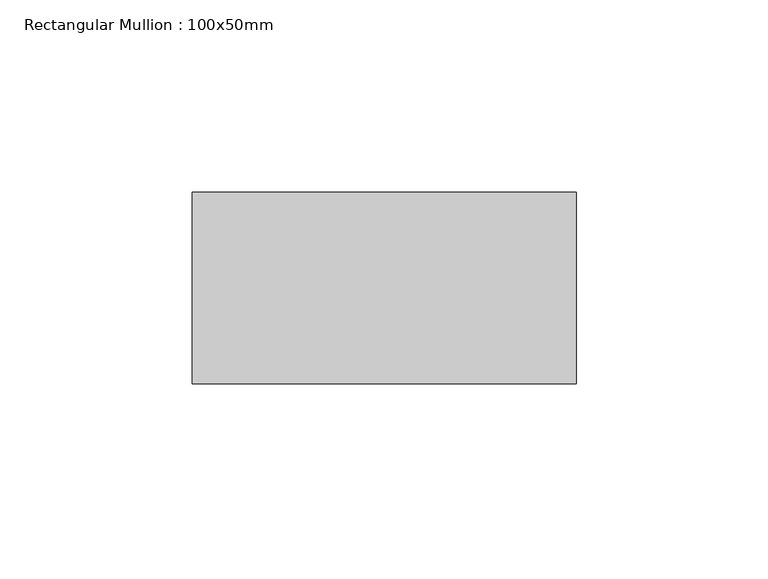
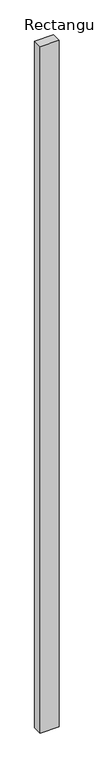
"""IFC4 building model written with IfcOpenShell, lengths in millimetres: member geometry, Rectangular Mullion : 100x50mm."""

from ifc_helpers import new_model, si_unit, frame, origin, place, context, project, spatial, polyline, outline, extrude, source, transform, mapped, element, save


def rectangular_mullion_100x50mm_7a7260c5(model_context):
    return source(origin(), model_context, "Body", "SweptSolid", [
        extrude(outline(polyline([(50.0, 25.0), (50.0, -25.0), (-50.0, -25.0), (-50.0, 25.0), (50.0, 25.0)])), frame((0.0, 0.0, -3839.423247), z_axis=(0.0, 0.0, 1.0), x_axis=(1.0, 0.0, 0.0)), (0.0, 0.0, 1.0), 3839.423247),
    ])


if __name__ == "__main__":
    model = new_model("IFC4")
    model_context = context("Model", 3, world=origin())
    ifc_project = project(units=[si_unit("LENGTHUNIT", "METRE", prefix="MILLI")], contexts=[model_context])
    site = spatial("IfcSite", under=ifc_project)
    building = spatial("IfcBuilding", under=site)
    placement = place(None, origin())
    rectangular_mullion_100x50mm_shape = rectangular_mullion_100x50mm_7a7260c5(model_context)
    element("IfcMember", 1, ObjectType="Rectangular Mullion : 100x50mm", at=placement, inside=building, context=model_context, shape_type="MappedRepresentation", body=[
        mapped(rectangular_mullion_100x50mm_shape, transform((0.0, 0.0, 0.0), x_axis=(1.0, 0.0, 0.0), y_axis=(0.0, 1.0, 0.0), z_axis=(0.0, 0.0, 1.0))),
    ])
    save(model, "model.ifc")
